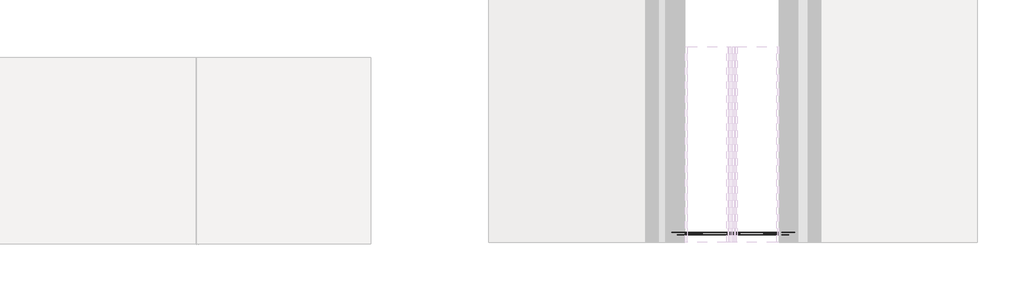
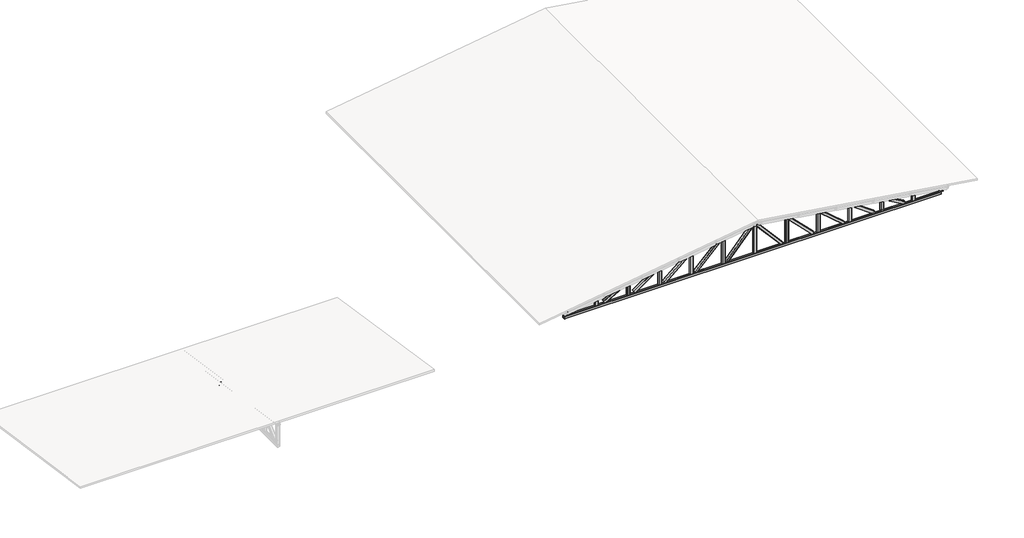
# One storey, part 2 of 3: 29 beams.
"""IFC4 building model written with IfcOpenShell, lengths in millimetres."""

from ifc_helpers import new_model, si_unit, point, frame, frame_2d, origin, place, context, project, spatial, polyline, circle_curve, ellipse_curve, trimmed, segment, composite_curve, outline, extrude, faceted_brep, transform, mapped, element, save
from ifc_brep_helpers import plane_surface, cylinder_surface, revolved_surface, advanced_brep
from components import viga_c_10x10_1bc73bf7, viga_c_10x10_cf1afbd9, viga_c_10x10_cb790618, viga_c_10x10_4bff73f7, viga_c_10x10_b83619fa, viga_c_10x10_4ffb476a, viga_c_10x10_01e8174d, viga_c_10x10_22368504, viga_c_10x10_3c9f5f1a, viga_c_10x10_9ffc08ec, viga_c_10x10_fef4f7e0, viga_c_10x10_f4dafbe5, viga_c_10x10_df6e70f8, viga_c_10x10_3737d6d8, viga_c_10x10_c9c204d0, viga_c_10x10_c1a71fa2, viga_c_10x10_071e4779, viga_c_10x10_0e2a75e5, viga_c_10x10_72518fa7, viga_c_10x10_66f59e24, viga_c_10x10_36be5f80, viga_c_10x10_e525f78e, viga_c_10x10_0d0f2ad4, viga_c_10x10_5beb1303, viga_c_10x10_dc3e690e, viga_c_10x10_2f6019ce

model = new_model("IFC4")

# Units and contexts
model_context = context("Model", 3, world=origin())
ifc_project = project(units=[si_unit("LENGTHUNIT", "METRE", prefix="MILLI")], contexts=[model_context])

# Site, building, storey
site = spatial("IfcSite", under=ifc_project)
building = spatial("IfcBuilding", under=site)
storey = spatial("IfcBuildingStorey", under=building, Name="NÍVEL PLATIBANDA", Elevation=4700.0)

# Beams
placement = place(None, origin())
element("IfcBeam", 1, ObjectType="VIGA PERFIL C AÇO : VIGA C 10X10", at=placement, inside=storey, context=model_context, shape_type="SweptSolid", body=[
    extrude(outline(composite_curve([segment(trimmed(circle_curve(frame_2d((-46.2, 3.8000001)), 3.8), [point((-46.2, 0.0))], [point((-50.0, 3.8000001))], False, "CARTESIAN"), True, "CONTINUOUS"), segment(polyline([(-50.0, 3.8000001), (-50.0, 96.2000001)]), True, "CONTINUOUS"), segment(trimmed(circle_curve(frame_2d((-46.2, 96.2000001)), 3.8), [point((-50.0, 96.2000001))], [point((-46.2, 100.0))], False, "CARTESIAN"), True, "CONTINUOUS"), segment(polyline([(-46.2, 100.0), (-30.0, 100.0), (-30.0, 98.1), (-46.2, 98.1)]), True, "CONTINUOUS"), segment(trimmed(circle_curve(frame_2d((-46.2, 96.2000001)), 1.9), [point((-46.2, 98.1))], [point((-48.1, 96.2000001))], True, "CARTESIAN"), True, "CONTINUOUS"), segment(polyline([(-48.1, 96.2000001), (-48.1, 3.8000001)]), True, "CONTINUOUS"), segment(trimmed(circle_curve(frame_2d((-46.2, 3.8000001)), 1.9), [point((-48.1, 3.8000001))], [point((-46.2, 1.9))], True, "CARTESIAN"), True, "CONTINUOUS"), segment(polyline([(-46.2, 1.9), (46.2, 1.9)]), True, "CONTINUOUS"), segment(trimmed(circle_curve(frame_2d((46.2, 3.8000001)), 1.9), [point((46.2, 1.9))], [point((48.1, 3.8000001))], True, "CARTESIAN"), True, "CONTINUOUS"), segment(polyline([(48.1, 3.8000001), (48.1, 96.2000001)]), True, "CONTINUOUS"), segment(trimmed(circle_curve(frame_2d((46.2, 96.2000001)), 1.9), [point((48.1, 96.2000001))], [point((46.2, 98.1))], True, "CARTESIAN"), True, "CONTINUOUS"), segment(polyline([(46.2, 98.1), (30.0, 98.1), (30.0, 100.0), (46.2, 100.0)]), True, "CONTINUOUS"), segment(trimmed(circle_curve(frame_2d((46.2, 96.2000001)), 3.8), [point((46.2, 100.0))], [point((50.0, 96.2000001))], False, "CARTESIAN"), True, "CONTINUOUS"), segment(polyline([(50.0, 96.2000001), (50.0, 3.8000001)]), True, "CONTINUOUS"), segment(trimmed(circle_curve(frame_2d((46.2, 3.8000001)), 3.8), [point((50.0, 3.8000001))], [point((46.2, 0.0))], False, "CARTESIAN"), True, "CONTINUOUS"), segment(polyline([(46.2, 0.0), (-46.2, 0.0)]), True, "CONTINUOUS")], self_intersect=False)), frame((-3669.981822, -3529.0461532, 5045.5077302), z_axis=(0.988936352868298, 0.0, 0.14834045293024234), x_axis=(0.0, -1.0, 0.0)), (0.0, 0.0, 1.0), 7123.0),
    extrude(outline(polyline([(-50.0, -9.2000001), (-50.0, 90.8), (-30.0, 90.8), (-30.0, 88.8999999), (-48.1, 88.8999999), (-48.1, -7.3), (48.1, -7.3), (48.1, 88.8999999), (30.0, 88.8999999), (30.0, 90.8), (50.0, 90.8), (50.0, -9.2000001), (-50.0, -9.2000001)])), frame((-3668.6170898, -3529.0461532, 5036.4095157), z_axis=(0.988936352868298, 0.0, 0.14834045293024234), x_axis=(0.0, -1.0, 0.0)), (0.0, 0.0, 1.0), 7123.0),
])
element("IfcBeam", 2, ObjectType="VIGA PERFIL C AÇO : VIGA C 10X10", at=placement, inside=storey, context=model_context, shape_type="SolidModel", body=[
    advanced_brep(
    [(3399.8113968, -3482.8461532, 6219.0793491), (3399.2477031, -3479.0461532, 6215.321391), (3385.5410452, -3479.0461532, 6123.943672), (3384.9773515, -3482.8461532, 6120.1857138), (3384.9773515, -3499.0461532, 6120.1857138), (3385.2591984, -3499.0461532, 6122.0646929), (3385.2591984, -3482.8461532, 6122.0646929), (3385.5410452, -3480.9461532, 6123.943672), (3399.2477031, -3480.9461532, 6215.321391), (3399.52955, -3482.8461532, 6217.2003701), (3399.52955, -3575.2461532, 6217.2003701), (3399.2477031, -3577.1461532, 6215.321391), (3385.5410452, -3577.1461532, 6123.943672), (3385.2591984, -3575.2461532, 6122.0646929), (3385.2591984, -3559.0461532, 6122.0646929), (3384.9773515, -3559.0461532, 6120.1857138), (3384.9773515, -3575.2461532, 6120.1857138), (3385.5410452, -3579.0461532, 6123.943672), (3399.2477031, -3579.0461532, 6215.321391), (3399.8113968, -3575.2461532, 6219.0793491), (11186.0201839, -3575.2461532, 5051.1480311), (11186.0201839, -3482.8461532, 5051.1480311), (11182.2201839, -3579.0461532, 5047.8755189), (11089.8201839, -3579.0461532, 4968.3018012), (11086.0201839, -3575.2461532, 4965.029289), (11086.0201839, -3559.0461532, 4965.029289), (11087.9201839, -3559.0461532, 4966.6655451), (11087.9201839, -3575.2461532, 4966.6655451), (11089.8201839, -3577.1461532, 4968.3018012), (11182.2201839, -3577.1461532, 5047.8755189), (11184.1201839, -3575.2461532, 5049.511775), (11184.1201839, -3482.8461532, 5049.511775), (11182.2201839, -3480.9461532, 5047.8755189), (11089.8201839, -3480.9461532, 4968.3018012), (11087.9201839, -3482.8461532, 4966.6655451), (11087.9201839, -3499.0461532, 4966.6655451), (11086.0201839, -3499.0461532, 4965.029289), (11086.0201839, -3482.8461532, 4965.029289), (11089.8201839, -3479.0461532, 4968.3018012), (11182.2201839, -3479.0461532, 5047.8755189)],
    [
        (0, 1, circle_curve(frame((3399.2477031, -3482.8461532, 6215.321391), z_axis=(-0.988936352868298, 0.0, 0.14834045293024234), x_axis=(-0.14834045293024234, 0.0, -0.988936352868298)), 3.8)),
        (1, 2),
        (2, 3, circle_curve(frame((3385.5410452, -3482.8461532, 6123.943672), z_axis=(-0.988936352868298, 0.0, 0.14834045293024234), x_axis=(-0.14834045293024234, 0.0, -0.988936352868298)), 3.8)),
        (3, 4),
        (4, 5),
        (5, 6),
        (6, 7, circle_curve(frame((3385.5410452, -3482.8461532, 6123.943672), z_axis=(0.988936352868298, 0.0, -0.14834045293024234), x_axis=(-0.14834045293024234, 0.0, -0.988936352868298)), 1.9)),
        (7, 8),
        (8, 9, circle_curve(frame((3399.2477031, -3482.8461532, 6215.321391), z_axis=(0.988936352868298, 0.0, -0.14834045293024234), x_axis=(-0.14834045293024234, 0.0, -0.988936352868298)), 1.9)),
        (9, 10),
        (10, 11, circle_curve(frame((3399.2477031, -3575.2461532, 6215.321391), z_axis=(0.988936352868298, 0.0, -0.14834045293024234), x_axis=(-0.14834045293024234, 0.0, -0.988936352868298)), 1.9)),
        (11, 12),
        (12, 13, circle_curve(frame((3385.5410452, -3575.2461532, 6123.943672), z_axis=(0.988936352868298, 0.0, -0.14834045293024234), x_axis=(-0.14834045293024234, 0.0, -0.988936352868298)), 1.9)),
        (13, 14),
        (14, 15),
        (15, 16),
        (16, 17, circle_curve(frame((3385.5410452, -3575.2461532, 6123.943672), z_axis=(-0.988936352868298, 0.0, 0.14834045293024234), x_axis=(-0.14834045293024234, 0.0, -0.988936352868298)), 3.8)),
        (17, 18),
        (18, 19, circle_curve(frame((3399.2477031, -3575.2461532, 6215.321391), z_axis=(-0.988936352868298, 0.0, 0.14834045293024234), x_axis=(-0.14834045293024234, 0.0, -0.988936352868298)), 3.8)),
        (19, 0),
        (20, 21),
        (21, 0),
        (19, 20),
        (22, 20, ellipse_curve(frame((11182.2201839, -3575.2461532, 5047.8755189), z_axis=(-0.6525563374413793, 0.0, 0.7577402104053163), x_axis=(0.757740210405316, 0.0, 0.6525563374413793)), 5.0149114, 3.8)),
        (18, 22),
        (23, 22),
        (17, 23),
        (24, 23, ellipse_curve(frame((11089.8201839, -3575.2461532, 4968.3018012), z_axis=(-0.6525563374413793, 0.0, 0.7577402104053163), x_axis=(0.757740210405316, 0.0, 0.6525563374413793)), 5.0149114, 3.8)),
        (16, 24),
        (25, 24),
        (15, 25),
        (26, 25),
        (14, 26),
        (27, 26),
        (13, 27),
        (28, 27, ellipse_curve(frame((11089.8201839, -3575.2461532, 4968.3018012), z_axis=(0.6525563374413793, 0.0, -0.7577402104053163), x_axis=(-0.757740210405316, 0.0, -0.6525563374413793)), 2.5074557, 1.9)),
        (12, 28),
        (29, 28),
        (11, 29),
        (30, 29, ellipse_curve(frame((11182.2201839, -3575.2461532, 5047.8755189), z_axis=(0.6525563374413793, 0.0, -0.7577402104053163), x_axis=(-0.757740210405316, 0.0, -0.6525563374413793)), 2.5074557, 1.9)),
        (10, 30),
        (31, 30),
        (9, 31),
        (32, 31, ellipse_curve(frame((11182.2201839, -3482.8461532, 5047.8755189), z_axis=(0.6525563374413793, 0.0, -0.7577402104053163), x_axis=(-0.757740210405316, 0.0, -0.6525563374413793)), 2.5074557, 1.9)),
        (8, 32),
        (33, 32),
        (7, 33),
        (34, 33, ellipse_curve(frame((11089.8201839, -3482.8461532, 4968.3018012), z_axis=(0.6525563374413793, 0.0, -0.7577402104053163), x_axis=(-0.757740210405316, 0.0, -0.6525563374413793)), 2.5074557, 1.9)),
        (6, 34),
        (35, 34),
        (5, 35),
        (36, 35),
        (4, 36),
        (37, 36),
        (3, 37),
        (38, 37, ellipse_curve(frame((11089.8201839, -3482.8461532, 4968.3018012), z_axis=(-0.6525563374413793, 0.0, 0.7577402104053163), x_axis=(0.757740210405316, 0.0, 0.6525563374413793)), 5.0149114, 3.8)),
        (2, 38),
        (39, 38),
        (1, 39),
        (21, 39, ellipse_curve(frame((11182.2201839, -3482.8461532, 5047.8755189), z_axis=(-0.6525563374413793, 0.0, 0.7577402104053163), x_axis=(0.757740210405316, 0.0, 0.6525563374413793)), 5.0149114, 3.8)),
    ],
    [
        plane_surface(frame((3399.8113968, -3529.0461532, 6219.0793491), z_axis=(-0.988936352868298, 0.0, 0.14834045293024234), x_axis=(0.0, -1.0, 0.0))),
        plane_surface(frame((11177.7958121, -3482.8461532, 5052.3816868), z_axis=(0.14834045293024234, 0.0, 0.988936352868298), x_axis=(-0.988936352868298, 0.0, 0.14834045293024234))),
        cylinder_surface(frame((11177.2321184, -3575.2461532, 5048.6237287), z_axis=(0.9889363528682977, 0.0, -0.1483404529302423), x_axis=(-0.14834045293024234, 0.0, -0.988936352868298)), 3.8),
        plane_surface(frame((11177.2321184, -3579.0461532, 5048.6237287), z_axis=(0.0, -1.0000000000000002, 0.0), x_axis=(-0.988936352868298, 0.0, 0.14834045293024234))),
        cylinder_surface(frame((11163.5254606, -3575.2461532, 4957.2460097), z_axis=(0.9889363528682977, 0.0, -0.1483404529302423), x_axis=(-0.14834045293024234, 0.0, -0.988936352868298)), 3.8),
        plane_surface(frame((11162.9617668, -3575.2461532, 4953.4880515), z_axis=(-0.14834045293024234, 0.0, -0.988936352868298), x_axis=(-0.988936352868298, 0.0, 0.14834045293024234))),
        plane_surface(frame((11162.9617668, -3559.0461532, 4953.4880515), z_axis=(0.0, 1.0000000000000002, 0.0), x_axis=(-0.988936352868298, 0.0, 0.14834045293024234))),
        plane_surface(frame((11163.2436137, -3559.0461532, 4955.3670306), z_axis=(0.14834045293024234, 0.0, 0.988936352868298), x_axis=(-0.988936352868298, 0.0, 0.14834045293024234))),
        revolved_surface(polyline([(3385.2591983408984, -3575.2461532, 6122.064692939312), (11091.15649018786, -3575.2461532, 4966.180099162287)]), (11163.5254606, -3575.2461532, 4957.2460097), (-0.9889363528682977, 0.0, 0.1483404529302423)),
        plane_surface(frame((11163.5254606, -3577.1461532, 4957.2460097), z_axis=(0.0, 1.0000000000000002, 0.0), x_axis=(-0.988936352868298, 0.0, 0.14834045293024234))),
        revolved_surface(polyline([(3398.9658562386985, -3575.2461532, 6213.442411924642), (11183.55649018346, -3575.2461532, 5045.7538168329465)]), (11177.2321184, -3575.2461532, 5048.6237287), (-0.9889363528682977, 0.0, 0.1483404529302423)),
        plane_surface(frame((11177.5139653, -3575.2461532, 5050.5027078), z_axis=(-0.14834045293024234, 0.0, -0.988936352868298), x_axis=(-0.988936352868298, 0.0, 0.14834045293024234))),
        revolved_surface(polyline([(3398.9658562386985, -3482.8461532, 6213.442411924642), (11183.55649018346, -3482.8461532, 5045.7538168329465)]), (11177.2321184, -3482.8461532, 5048.6237287), (-0.9889363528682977, 0.0, 0.1483404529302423)),
        plane_surface(frame((11177.2321184, -3480.9461532, 5048.6237287), z_axis=(0.0, -1.0000000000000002, 0.0), x_axis=(-0.988936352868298, 0.0, 0.14834045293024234))),
        revolved_surface(polyline([(3385.2591983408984, -3482.8461532, 6122.064692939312), (11091.15649018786, -3482.8461532, 4966.180099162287)]), (11163.5254606, -3482.8461532, 4957.2460097), (-0.9889363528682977, 0.0, 0.1483404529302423)),
        plane_surface(frame((11163.2436137, -3482.8461532, 4955.3670306), z_axis=(0.14834045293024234, 0.0, 0.988936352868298), x_axis=(-0.988936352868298, 0.0, 0.14834045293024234))),
        plane_surface(frame((11163.2436137, -3499.0461532, 4955.3670306), z_axis=(0.0, -1.0000000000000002, 0.0), x_axis=(-0.988936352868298, 0.0, 0.14834045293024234))),
        plane_surface(frame((11162.9617668, -3499.0461532, 4953.4880515), z_axis=(-0.14834045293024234, 0.0, -0.988936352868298), x_axis=(-0.988936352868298, 0.0, 0.14834045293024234))),
        cylinder_surface(frame((11163.5254606, -3482.8461532, 4957.2460097), z_axis=(0.9889363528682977, 0.0, -0.1483404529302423), x_axis=(-0.14834045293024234, 0.0, -0.988936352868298)), 3.8),
        plane_surface(frame((11163.5254606, -3479.0461532, 4957.2460097), z_axis=(0.0, 1.0000000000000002, 0.0), x_axis=(-0.988936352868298, 0.0, 0.14834045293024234))),
        cylinder_surface(frame((11177.2321184, -3482.8461532, 5048.6237287), z_axis=(0.9889363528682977, 0.0, -0.1483404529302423), x_axis=(-0.14834045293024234, 0.0, -0.988936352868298)), 3.8),
        plane_surface(frame((11186.0201839, -3529.0461532, 5051.1480311), z_axis=(0.6525563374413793, 0.0, -0.7577402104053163), x_axis=(0.7577402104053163, 0.0, 0.6525563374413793))),
    ],
    [
        (0, [[1, 2, 3, 4, 5, 6, 7, 8, 9, 10, 11, 12, 13, 14, 15, 16, 17, 18, 19, 20]]),
        (1, [[21, 22, -20, 23]]),
        (2, [[24, -23, -19, 25]]),
        (3, [[26, -25, -18, 27]]),
        (4, [[28, -27, -17, 29]]),
        (5, [[30, -29, -16, 31]]),
        (6, [[32, -31, -15, 33]]),
        (7, [[34, -33, -14, 35]]),
        (8, [[36, -35, -13, 37]]),
        (9, [[38, -37, -12, 39]]),
        (10, [[40, -39, -11, 41]]),
        (11, [[42, -41, -10, 43]]),
        (12, [[44, -43, -9, 45]]),
        (13, [[46, -45, -8, 47]]),
        (14, [[48, -47, -7, 49]]),
        (15, [[50, -49, -6, 51]]),
        (16, [[52, -51, -5, 53]]),
        (17, [[54, -53, -4, 55]]),
        (18, [[56, -55, -3, 57]]),
        (19, [[58, -57, -2, 59]]),
        (20, [[60, -59, -1, -22]]),
        (21, [[-21, -24, -26, -28, -30, -32, -34, -36, -38, -40, -42, -44, -46, -48, -50, -52, -54, -56, -58, -60]]),
    ],
),
    faceted_brep([(3399.8113968, -3479.0461532, 6219.0793491), (3384.9773515, -3479.0461532, 6120.1857138), (3384.9773515, -3499.0461532, 6120.1857138), (3385.2591984, -3499.0461532, 6122.0646929), (3385.2591984, -3480.9461532, 6122.0646929), (3399.52955, -3480.9461532, 6217.2003701), (3399.52955, -3577.1461532, 6217.2003701), (3385.2591984, -3577.1461532, 6122.0646929), (3385.2591984, -3559.0461532, 6122.0646929), (3384.9773515, -3559.0461532, 6120.1857138), (3384.9773515, -3579.0461532, 6120.1857138), (3399.8113968, -3579.0461532, 6219.0793491), (11186.0201839, -3579.0461532, 5051.1480311), (11186.0201839, -3479.0461532, 5051.1480311), (11086.0201839, -3579.0461532, 4965.029289), (11086.0201839, -3559.0461532, 4965.029289), (11087.9201839, -3559.0461532, 4966.6655451), (11087.9201839, -3577.1461532, 4966.6655451), (11184.1201839, -3577.1461532, 5049.511775), (11184.1201839, -3480.9461532, 5049.511775), (11087.9201839, -3480.9461532, 4966.6655451), (11087.9201839, -3499.0461532, 4966.6655451), (11086.0201839, -3499.0461532, 4965.029289), (11086.0201839, -3479.0461532, 4965.029289)], [[[0, 1, 2, 3, 4, 5, 6, 7, 8, 9, 10, 11]], [[12, 13, 0, 11]], [[14, 12, 11, 10]], [[15, 14, 10, 9]], [[16, 15, 9, 8]], [[17, 16, 8, 7]], [[18, 17, 7, 6]], [[19, 18, 6, 5]], [[20, 19, 5, 4]], [[21, 20, 4, 3]], [[22, 21, 3, 2]], [[23, 22, 2, 1]], [[13, 23, 1, 0]], [[13, 12, 14, 15, 16, 17, 18, 19, 20, 21, 22, 23]]]),
])
element("IfcBeam", 3, ObjectType="VIGA PERFIL C AÇO : VIGA C 10X10", at=placement, inside=storey, context=model_context, shape_type="SolidModel", body=[
    advanced_brep(
    [(11186.0201839, -3482.8461532, 4804.1125534), (11186.0201839, -3575.2461532, 4804.1125534), (11182.2201839, -3579.0461532, 4804.1125534), (11089.8201839, -3579.0461532, 4804.1125534), (11086.0201839, -3575.2461532, 4804.1125534), (11086.0201839, -3559.0461532, 4804.1125534), (11087.9201839, -3559.0461532, 4804.1125534), (11087.9201839, -3575.2461532, 4804.1125534), (11089.8201839, -3577.1461532, 4804.1125534), (11182.2201839, -3577.1461532, 4804.1125534), (11184.1201839, -3575.2461532, 4804.1125534), (11184.1201839, -3482.8461532, 4804.1125534), (11182.2201839, -3480.9461532, 4804.1125534), (11089.8201839, -3480.9461532, 4804.1125534), (11087.9201839, -3482.8461532, 4804.1125534), (11087.9201839, -3499.0461532, 4804.1125534), (11086.0201839, -3499.0461532, 4804.1125534), (11086.0201839, -3482.8461532, 4804.1125534), (11089.8201839, -3479.0461532, 4804.1125534), (11182.2201839, -3479.0461532, 4804.1125534), (11186.0201839, -3482.8461532, 5051.1480311), (11186.0201839, -3575.2461532, 5051.1480311), (11182.2201839, -3579.0461532, 5047.8755189), (11089.8201839, -3579.0461532, 4968.3018012), (11086.0201839, -3575.2461532, 4965.029289), (11086.0201839, -3559.0461532, 4965.029289), (11087.9201839, -3559.0461532, 4966.6655451), (11087.9201839, -3575.2461532, 4966.6655451), (11089.8201839, -3577.1461532, 4968.3018012), (11182.2201839, -3577.1461532, 5047.8755189), (11184.1201839, -3575.2461532, 5049.511775), (11184.1201839, -3482.8461532, 5049.511775), (11182.2201839, -3480.9461532, 5047.8755189), (11089.8201839, -3480.9461532, 4968.3018012), (11087.9201839, -3482.8461532, 4966.6655451), (11087.9201839, -3499.0461532, 4966.6655451), (11086.0201839, -3499.0461532, 4965.029289), (11086.0201839, -3482.8461532, 4965.029289), (11089.8201839, -3479.0461532, 4968.3018012), (11182.2201839, -3479.0461532, 5047.8755189)],
    [
        (0, 1),
        (1, 2, circle_curve(frame((11182.2201839, -3575.2461532, 4804.1125534), z_axis=(0.0, 0.0, -1.0), x_axis=(-1.0, 0.0, 0.0)), 3.8)),
        (2, 3),
        (3, 4, circle_curve(frame((11089.8201839, -3575.2461532, 4804.1125534), z_axis=(0.0, 0.0, -1.0), x_axis=(-1.0, 0.0, 0.0)), 3.8)),
        (4, 5),
        (5, 6),
        (6, 7),
        (7, 8, circle_curve(frame((11089.8201839, -3575.2461532, 4804.1125534), z_axis=(0.0, 0.0, 1.0), x_axis=(-1.0, 0.0, 0.0)), 1.9)),
        (8, 9),
        (9, 10, circle_curve(frame((11182.2201839, -3575.2461532, 4804.1125534), z_axis=(0.0, 0.0, 1.0), x_axis=(-1.0, 0.0, 0.0)), 1.9)),
        (10, 11),
        (11, 12, circle_curve(frame((11182.2201839, -3482.8461532, 4804.1125534), z_axis=(0.0, 0.0, 1.0), x_axis=(-1.0, 0.0, 0.0)), 1.9)),
        (12, 13),
        (13, 14, circle_curve(frame((11089.8201839, -3482.8461532, 4804.1125534), z_axis=(0.0, 0.0, 1.0), x_axis=(-1.0, 0.0, 0.0)), 1.9)),
        (14, 15),
        (15, 16),
        (16, 17),
        (17, 18, circle_curve(frame((11089.8201839, -3482.8461532, 4804.1125534), z_axis=(0.0, 0.0, -1.0), x_axis=(-1.0, 0.0, 0.0)), 3.8)),
        (18, 19),
        (19, 0, circle_curve(frame((11182.2201839, -3482.8461532, 4804.1125534), z_axis=(0.0, 0.0, -1.0), x_axis=(-1.0, 0.0, 0.0)), 3.8)),
        (0, 20),
        (20, 21),
        (21, 1),
        (21, 22, ellipse_curve(frame((11182.2201839, -3575.2461532, 5047.8755189), z_axis=(0.6525563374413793, 0.0, -0.7577402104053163), x_axis=(-0.7577402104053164, 0.0, -0.652556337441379)), 5.0149114, 3.8)),
        (22, 2),
        (22, 23),
        (23, 3),
        (23, 24, ellipse_curve(frame((11089.8201839, -3575.2461532, 4968.3018012), z_axis=(0.6525563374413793, 0.0, -0.7577402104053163), x_axis=(-0.7577402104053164, 0.0, -0.652556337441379)), 5.0149114, 3.8)),
        (24, 4),
        (24, 25),
        (25, 5),
        (25, 26),
        (26, 6),
        (26, 27),
        (27, 7),
        (27, 28, ellipse_curve(frame((11089.8201839, -3575.2461532, 4968.3018012), z_axis=(-0.6525563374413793, 0.0, 0.7577402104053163), x_axis=(0.7577402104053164, 0.0, 0.652556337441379)), 2.5074557, 1.9)),
        (28, 8),
        (28, 29),
        (29, 9),
        (29, 30, ellipse_curve(frame((11182.2201839, -3575.2461532, 5047.8755189), z_axis=(-0.6525563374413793, 0.0, 0.7577402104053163), x_axis=(0.7577402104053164, 0.0, 0.652556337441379)), 2.5074557, 1.9)),
        (30, 10),
        (30, 31),
        (31, 11),
        (31, 32, ellipse_curve(frame((11182.2201839, -3482.8461532, 5047.8755189), z_axis=(-0.6525563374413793, 0.0, 0.7577402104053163), x_axis=(0.7577402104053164, 0.0, 0.652556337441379)), 2.5074557, 1.9)),
        (32, 12),
        (32, 33),
        (33, 13),
        (33, 34, ellipse_curve(frame((11089.8201839, -3482.8461532, 4968.3018012), z_axis=(-0.6525563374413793, 0.0, 0.7577402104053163), x_axis=(0.7577402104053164, 0.0, 0.652556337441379)), 2.5074557, 1.9)),
        (34, 14),
        (34, 35),
        (35, 15),
        (35, 36),
        (36, 16),
        (36, 37),
        (37, 17),
        (37, 38, ellipse_curve(frame((11089.8201839, -3482.8461532, 4968.3018012), z_axis=(0.6525563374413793, 0.0, -0.7577402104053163), x_axis=(-0.7577402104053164, 0.0, -0.652556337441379)), 5.0149114, 3.8)),
        (38, 18),
        (38, 39),
        (39, 19),
        (39, 20, ellipse_curve(frame((11182.2201839, -3482.8461532, 5047.8755189), z_axis=(0.6525563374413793, 0.0, -0.7577402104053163), x_axis=(-0.7577402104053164, 0.0, -0.652556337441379)), 5.0149114, 3.8)),
    ],
    [
        plane_surface(frame((11186.0201839, -3529.0461532, 4804.1125534), z_axis=(0.0, 0.0, -1.0), x_axis=(0.0, -1.0, 0.0))),
        plane_surface(frame((11186.0201839, -3482.8461532, 4804.1125534), z_axis=(1.0, 0.0, 0.0), x_axis=(0.0, 0.0, 1.0))),
        cylinder_surface(frame((11182.2201839, -3575.2461532, 4804.1125534), z_axis=(0.0, 0.0, -1.0), x_axis=(-1.0, 0.0, 0.0)), 3.8),
        plane_surface(frame((11182.2201839, -3579.0461532, 4804.1125534), z_axis=(0.0, -1.0, 0.0), x_axis=(0.0, 0.0, 1.0))),
        cylinder_surface(frame((11089.8201839, -3575.2461532, 4804.1125534), z_axis=(0.0, 0.0, -1.0), x_axis=(-1.0, 0.0, 0.0)), 3.8),
        plane_surface(frame((11086.0201839, -3575.2461532, 4804.1125534), z_axis=(-1.0, 0.0, 0.0), x_axis=(0.0, 0.0, 1.0))),
        plane_surface(frame((11086.0201839, -3559.0461532, 4804.1125534), z_axis=(0.0, 1.0, 0.0), x_axis=(0.0, 0.0, 1.0))),
        plane_surface(frame((11087.9201839, -3559.0461532, 4804.1125534), z_axis=(1.0, 0.0, 0.0), x_axis=(0.0, 0.0, 1.0))),
        revolved_surface(polyline([(11087.9201839, -3575.2461532, 4969.938057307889), (11087.9201839, -3575.2461532, 4804.1125534)]), (11089.8201839, -3575.2461532, 4804.1125534), (0.0, 0.0, 1.0)),
        plane_surface(frame((11089.8201839, -3577.1461532, 4804.1125534), z_axis=(0.0, 1.0, 0.0), x_axis=(0.0, 0.0, 1.0))),
        revolved_surface(polyline([(11180.320183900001, -3575.2461532, 5049.511775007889), (11180.320183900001, -3575.2461532, 4804.1125534)]), (11182.2201839, -3575.2461532, 4804.1125534), (0.0, 0.0, 1.0)),
        plane_surface(frame((11184.1201839, -3575.2461532, 4804.1125534), z_axis=(-1.0, 0.0, 0.0), x_axis=(0.0, 0.0, 1.0))),
        revolved_surface(polyline([(11180.320183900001, -3482.8461532, 5049.511775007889), (11180.320183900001, -3482.8461532, 4804.1125534)]), (11182.2201839, -3482.8461532, 4804.1125534), (0.0, 0.0, 1.0)),
        plane_surface(frame((11182.2201839, -3480.9461532, 4804.1125534), z_axis=(0.0, -1.0, 0.0), x_axis=(0.0, 0.0, 1.0))),
        revolved_surface(polyline([(11087.9201839, -3482.8461532, 4969.938057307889), (11087.9201839, -3482.8461532, 4804.1125534)]), (11089.8201839, -3482.8461532, 4804.1125534), (0.0, 0.0, 1.0)),
        plane_surface(frame((11087.9201839, -3482.8461532, 4804.1125534), z_axis=(1.0, 0.0, 0.0), x_axis=(0.0, 0.0, 1.0))),
        plane_surface(frame((11087.9201839, -3499.0461532, 4804.1125534), z_axis=(0.0, -1.0, 0.0), x_axis=(0.0, 0.0, 1.0))),
        plane_surface(frame((11086.0201839, -3499.0461532, 4804.1125534), z_axis=(-1.0, 0.0, 0.0), x_axis=(0.0, 0.0, 1.0))),
        cylinder_surface(frame((11089.8201839, -3482.8461532, 4804.1125534), z_axis=(0.0, 0.0, -1.0), x_axis=(-1.0, 0.0, 0.0)), 3.8),
        plane_surface(frame((11089.8201839, -3479.0461532, 4804.1125534), z_axis=(0.0, 1.0, 0.0), x_axis=(0.0, 0.0, 1.0))),
        cylinder_surface(frame((11182.2201839, -3482.8461532, 4804.1125534), z_axis=(0.0, 0.0, -1.0), x_axis=(-1.0, 0.0, 0.0)), 3.8),
        plane_surface(frame((11086.0201839, -3529.0461532, 4965.029289), z_axis=(-0.6525563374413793, 0.0, 0.7577402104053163), x_axis=(0.7577402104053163, 0.0, 0.6525563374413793))),
    ],
    [
        (0, [[1, 2, 3, 4, 5, 6, 7, 8, 9, 10, 11, 12, 13, 14, 15, 16, 17, 18, 19, 20]]),
        (1, [[-1, 21, 22, 23]]),
        (2, [[-2, -23, 24, 25]]),
        (3, [[-3, -25, 26, 27]]),
        (4, [[-4, -27, 28, 29]]),
        (5, [[-5, -29, 30, 31]]),
        (6, [[-6, -31, 32, 33]]),
        (7, [[-7, -33, 34, 35]]),
        (8, [[-8, -35, 36, 37]]),
        (9, [[-9, -37, 38, 39]]),
        (10, [[-10, -39, 40, 41]]),
        (11, [[-11, -41, 42, 43]]),
        (12, [[-12, -43, 44, 45]]),
        (13, [[-13, -45, 46, 47]]),
        (14, [[-14, -47, 48, 49]]),
        (15, [[-15, -49, 50, 51]]),
        (16, [[-16, -51, 52, 53]]),
        (17, [[-17, -53, 54, 55]]),
        (18, [[-18, -55, 56, 57]]),
        (19, [[-19, -57, 58, 59]]),
        (20, [[-20, -59, 60, -21]]),
        (21, [[-60, -58, -56, -54, -52, -50, -48, -46, -44, -42, -40, -38, -36, -34, -32, -30, -28, -26, -24, -22]]),
    ],
),
    faceted_brep([(11186.0201839, -3479.0461532, 4804.1125534), (11186.0201839, -3579.0461532, 4804.1125534), (11086.0201839, -3579.0461532, 4804.1125534), (11086.0201839, -3559.0461532, 4804.1125534), (11087.9201839, -3559.0461532, 4804.1125534), (11087.9201839, -3577.1461532, 4804.1125534), (11184.1201839, -3577.1461532, 4804.1125534), (11184.1201839, -3480.9461532, 4804.1125534), (11087.9201839, -3480.9461532, 4804.1125534), (11087.9201839, -3499.0461532, 4804.1125534), (11086.0201839, -3499.0461532, 4804.1125534), (11086.0201839, -3479.0461532, 4804.1125534), (11186.0201839, -3479.0461532, 5051.1480311), (11186.0201839, -3579.0461532, 5051.1480311), (11086.0201839, -3579.0461532, 4965.029289), (11086.0201839, -3559.0461532, 4965.029289), (11087.9201839, -3559.0461532, 4966.6655451), (11087.9201839, -3577.1461532, 4966.6655451), (11184.1201839, -3577.1461532, 5049.511775), (11184.1201839, -3480.9461532, 5049.511775), (11087.9201839, -3480.9461532, 4966.6655451), (11087.9201839, -3499.0461532, 4966.6655451), (11086.0201839, -3499.0461532, 4965.029289), (11086.0201839, -3479.0461532, 4965.029289)], [[[0, 1, 2, 3, 4, 5, 6, 7, 8, 9, 10, 11]], [[1, 0, 12, 13]], [[2, 1, 13, 14]], [[3, 2, 14, 15]], [[4, 3, 15, 16]], [[5, 4, 16, 17]], [[6, 5, 17, 18]], [[7, 6, 18, 19]], [[8, 7, 19, 20]], [[9, 8, 20, 21]], [[10, 9, 21, 22]], [[11, 10, 22, 23]], [[0, 11, 23, 12]], [[12, 23, 22, 21, 20, 19, 18, 17, 16, 15, 14, 13]]]),
])
viga_c_10x10_shape = viga_c_10x10_1bc73bf7(model_context)
element("IfcBeam", 4, ObjectType="VIGA PERFIL C AÇO : VIGA C 10X10", at=placement, inside=storey, context=model_context, shape_type="MappedRepresentation", body=[
    mapped(viga_c_10x10_shape, transform((3701.8201839, -3529.0461532, 4700.0), x_axis=(1.0, 0.0, 0.0), y_axis=(0.0, 0.0, -1.0), z_axis=(0.0, 1.0, 0.0))),
])
viga_c_10x10_2_shape = viga_c_10x10_cf1afbd9(model_context)
element("IfcBeam", 5, ObjectType="VIGA PERFIL C AÇO : VIGA C 10X10", at=placement, inside=storey, context=model_context, shape_type="MappedRepresentation", body=[
    mapped(viga_c_10x10_2_shape, transform((10068.4868505, -3529.0461532, 4954.7375534), x_axis=(0.0, 0.0, 1.0), y_axis=(-1.0, 0.0, 0.0), z_axis=(0.0, -1.0, 0.0))),
])
viga_c_10x10_3_shape = viga_c_10x10_cb790618(model_context)
element("IfcBeam", 6, ObjectType="VIGA PERFIL C AÇO : VIGA C 10X10", at=placement, inside=storey, context=model_context, shape_type="MappedRepresentation", body=[
    mapped(viga_c_10x10_3_shape, transform((-2514.8464828, -3529.0461532, 4954.7375534), x_axis=(0.0, 0.0, 1.0), y_axis=(-1.0, 0.0, 0.0), z_axis=(0.0, -1.0, 0.0))),
])
viga_c_10x10_4_shape = viga_c_10x10_4bff73f7(model_context)
element("IfcBeam", 7, ObjectType="VIGA PERFIL C AÇO : VIGA C 10X10", at=placement, inside=storey, context=model_context, shape_type="MappedRepresentation", body=[
    mapped(viga_c_10x10_4_shape, transform((8810.1535172, -3529.0461532, 5049.1125534), x_axis=(0.0, 0.0, 1.0), y_axis=(-1.0, 0.0, 0.0), z_axis=(0.0, -1.0, 0.0))),
])
viga_c_10x10_5_shape = viga_c_10x10_b83619fa(model_context)
element("IfcBeam", 8, ObjectType="VIGA PERFIL C AÇO : VIGA C 10X10", at=placement, inside=storey, context=model_context, shape_type="MappedRepresentation", body=[
    mapped(viga_c_10x10_5_shape, transform((-1256.5131495, -3529.0461532, 5049.1125534), x_axis=(0.0, 0.0, 1.0), y_axis=(-1.0, 0.0, 0.0), z_axis=(0.0, -1.0, 0.0))),
])
viga_c_10x10_6_shape = viga_c_10x10_4ffb476a(model_context)
element("IfcBeam", 9, ObjectType="VIGA PERFIL C AÇO : VIGA C 10X10", at=placement, inside=storey, context=model_context, shape_type="MappedRepresentation", body=[
    mapped(viga_c_10x10_6_shape, transform((7551.8201839, -3529.0461532, 5143.4875534), x_axis=(0.0, 0.0, 1.0), y_axis=(-1.0, 0.0, 0.0), z_axis=(0.0, -1.0, 0.0))),
])
viga_c_10x10_7_shape = viga_c_10x10_01e8174d(model_context)
element("IfcBeam", 10, ObjectType="VIGA PERFIL C AÇO : VIGA C 10X10", at=placement, inside=storey, context=model_context, shape_type="MappedRepresentation", body=[
    mapped(viga_c_10x10_7_shape, transform((6293.4868505, -3529.0461532, 5237.8625534), x_axis=(0.0, 0.0, 1.0), y_axis=(-1.0, 0.0, 0.0), z_axis=(0.0, -1.0, 0.0))),
])
viga_c_10x10_8_shape = viga_c_10x10_22368504(model_context)
element("IfcBeam", 11, ObjectType="VIGA PERFIL C AÇO : VIGA C 10X10", at=placement, inside=storey, context=model_context, shape_type="MappedRepresentation", body=[
    mapped(viga_c_10x10_8_shape, transform((5035.1535172, -3529.0461532, 5332.2375534), x_axis=(0.0, 0.0, 1.0), y_axis=(-1.0, 0.0, 0.0), z_axis=(0.0, -1.0, 0.0))),
])
viga_c_10x10_9_shape = viga_c_10x10_3c9f5f1a(model_context)
element("IfcBeam", 12, ObjectType="VIGA PERFIL C AÇO : VIGA C 10X10", at=placement, inside=storey, context=model_context, shape_type="MappedRepresentation", body=[
    mapped(viga_c_10x10_9_shape, transform((1.8201839, -3529.0461532, 5143.4875534), x_axis=(0.0, 0.0, 1.0), y_axis=(-1.0, 0.0, 0.0), z_axis=(0.0, -1.0, 0.0))),
])
viga_c_10x10_10_shape = viga_c_10x10_9ffc08ec(model_context)
element("IfcBeam", 13, ObjectType="VIGA PERFIL C AÇO : VIGA C 10X10", at=placement, inside=storey, context=model_context, shape_type="MappedRepresentation", body=[
    mapped(viga_c_10x10_10_shape, transform((1260.1535172, -3529.0461532, 5237.8625534), x_axis=(0.0, 0.0, 1.0), y_axis=(-1.0, 0.0, 0.0), z_axis=(0.0, -1.0, 0.0))),
])
viga_c_10x10_11_shape = viga_c_10x10_fef4f7e0(model_context)
element("IfcBeam", 14, ObjectType="VIGA PERFIL C AÇO : VIGA C 10X10", at=placement, inside=storey, context=model_context, shape_type="MappedRepresentation", body=[
    mapped(viga_c_10x10_11_shape, transform((2518.4868505, -3529.0461532, 5332.2375534), x_axis=(0.0, 0.0, 1.0), y_axis=(-1.0, 0.0, 0.0), z_axis=(0.0, -1.0, 0.0))),
])
viga_c_10x10_12_shape = viga_c_10x10_f4dafbe5(model_context)
element("IfcBeam", 15, ObjectType="VIGA PERFIL C AÇO : VIGA C 10X10", at=placement, inside=storey, context=model_context, shape_type="MappedRepresentation", body=[
    mapped(viga_c_10x10_12_shape, transform((3776.8201839, -3529.0461532, 5426.6125534), x_axis=(0.0, 0.0, 1.0), y_axis=(-1.0, 0.0, 0.0), z_axis=(0.0, -1.0, 0.0))),
])
viga_c_10x10_13_shape = viga_c_10x10_df6e70f8(model_context)
element("IfcBeam", 16, ObjectType="VIGA PERFIL C AÇO : VIGA C 10X10", at=placement, inside=storey, context=model_context, shape_type="MappedRepresentation", body=[
    mapped(viga_c_10x10_13_shape, transform((11176.8201839, -3529.0461532, 4871.6125534), x_axis=(0.0, 0.0, 1.0), y_axis=(-1.0, 0.0, 0.0), z_axis=(0.0, -1.0, 0.0))),
])
viga_c_10x10_14_shape = viga_c_10x10_3737d6d8(model_context)
element("IfcBeam", 17, ObjectType="VIGA PERFIL C AÇO : VIGA C 10X10", at=placement, inside=storey, context=model_context, shape_type="MappedRepresentation", body=[
    mapped(viga_c_10x10_14_shape, transform((9439.3201839, -3529.0461532, 5049.1125534), x_axis=(0.8744076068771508, 0.0, -0.485192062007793), y_axis=(0.485192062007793, 0.0, 0.8744076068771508), z_axis=(0.0, -1.0, 0.0))),
])
viga_c_10x10_15_shape = viga_c_10x10_c9c204d0(model_context)
element("IfcBeam", 18, ObjectType="VIGA PERFIL C AÇO : VIGA C 10X10", at=placement, inside=storey, context=model_context, shape_type="MappedRepresentation", body=[
    mapped(viga_c_10x10_15_shape, transform((-1885.6798161, -3529.0461532, 5049.1125534), x_axis=(0.8744076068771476, 0.0, 0.4851920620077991), y_axis=(-0.4851920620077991, 0.0, 0.8744076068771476), z_axis=(0.0, -1.0, 0.0))),
])
viga_c_10x10_16_shape = viga_c_10x10_c1a71fa2(model_context)
element("IfcBeam", 19, ObjectType="VIGA PERFIL C AÇO : VIGA C 10X10", at=placement, inside=storey, context=model_context, shape_type="MappedRepresentation", body=[
    mapped(viga_c_10x10_16_shape, transform((8180.9868505, -3529.0461532, 5143.4875534), x_axis=(0.81735332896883, 0.0, -0.5761367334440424), y_axis=(0.5761367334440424, 0.0, 0.81735332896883), z_axis=(0.0, -1.0, 0.0))),
])
viga_c_10x10_17_shape = viga_c_10x10_071e4779(model_context)
element("IfcBeam", 20, ObjectType="VIGA PERFIL C AÇO : VIGA C 10X10", at=placement, inside=storey, context=model_context, shape_type="MappedRepresentation", body=[
    mapped(viga_c_10x10_17_shape, transform((-627.3464828, -3529.0461532, 5143.4875534), x_axis=(0.8173533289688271, 0.0, 0.5761367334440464), y_axis=(-0.5761367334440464, 0.0, 0.8173533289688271), z_axis=(0.0, -1.0, 0.0))),
])
viga_c_10x10_18_shape = viga_c_10x10_0e2a75e5(model_context)
element("IfcBeam", 21, ObjectType="VIGA PERFIL C AÇO : VIGA C 10X10", at=placement, inside=storey, context=model_context, shape_type="MappedRepresentation", body=[
    mapped(viga_c_10x10_18_shape, transform((6922.6535172, -3529.0461532, 5237.8625534), x_axis=(0.7601055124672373, 0.0, -0.6497996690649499), y_axis=(0.6497996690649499, 0.0, 0.7601055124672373), z_axis=(0.0, -1.0, 0.0))),
])
viga_c_10x10_19_shape = viga_c_10x10_72518fa7(model_context)
element("IfcBeam", 22, ObjectType="VIGA PERFIL C AÇO : VIGA C 10X10", at=placement, inside=storey, context=model_context, shape_type="MappedRepresentation", body=[
    mapped(viga_c_10x10_19_shape, transform((5664.3201839, -3529.0461532, 5332.2375534), x_axis=(0.7053832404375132, 0.0, -0.7088261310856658), y_axis=(0.7088261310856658, 0.0, 0.7053832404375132), z_axis=(0.0, -1.0, 0.0))),
])
viga_c_10x10_20_shape = viga_c_10x10_66f59e24(model_context)
element("IfcBeam", 23, ObjectType="VIGA PERFIL C AÇO : VIGA C 10X10", at=placement, inside=storey, context=model_context, shape_type="MappedRepresentation", body=[
    mapped(viga_c_10x10_20_shape, transform((4405.9868505, -3529.0461532, 5426.6125534), x_axis=(0.654595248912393, 0.0, -0.755979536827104), y_axis=(0.755979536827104, 0.0, 0.654595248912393), z_axis=(0.0, -1.0, 0.0))),
])
viga_c_10x10_21_shape = viga_c_10x10_36be5f80(model_context)
element("IfcBeam", 24, ObjectType="VIGA PERFIL C AÇO : VIGA C 10X10", at=placement, inside=storey, context=model_context, shape_type="MappedRepresentation", body=[
    mapped(viga_c_10x10_21_shape, transform((630.9868505, -3529.0461532, 5237.8625534), x_axis=(0.7601055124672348, 0.0, 0.6497996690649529), y_axis=(-0.6497996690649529, 0.0, 0.7601055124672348), z_axis=(0.0, -1.0, 0.0))),
])
viga_c_10x10_22_shape = viga_c_10x10_e525f78e(model_context)
element("IfcBeam", 25, ObjectType="VIGA PERFIL C AÇO : VIGA C 10X10", at=placement, inside=storey, context=model_context, shape_type="MappedRepresentation", body=[
    mapped(viga_c_10x10_22_shape, transform((1889.3201839, -3529.0461532, 5332.2375534), x_axis=(0.7053832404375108, 0.0, 0.7088261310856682), y_axis=(-0.7088261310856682, 0.0, 0.7053832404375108), z_axis=(0.0, -1.0, 0.0))),
])
viga_c_10x10_23_shape = viga_c_10x10_0d0f2ad4(model_context)
element("IfcBeam", 26, ObjectType="VIGA PERFIL C AÇO : VIGA C 10X10", at=placement, inside=storey, context=model_context, shape_type="MappedRepresentation", body=[
    mapped(viga_c_10x10_23_shape, transform((3147.6535172, -3529.0461532, 5426.6125534), x_axis=(0.6545952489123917, 0.0, 0.7559795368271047), y_axis=(-0.7559795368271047, 0.0, 0.6545952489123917), z_axis=(0.0, -1.0, 0.0))),
])
viga_c_10x10_24_shape = viga_c_10x10_5beb1303(model_context)
element("IfcBeam", 27, ObjectType="VIGA PERFIL C AÇO : VIGA C 10X10", at=placement, inside=storey, context=model_context, shape_type="MappedRepresentation", body=[
    mapped(viga_c_10x10_24_shape, transform((-15299.1331456, 650.0018914, 3715.6039522), x_axis=(0.0, 0.0, 1.0), y_axis=(0.0, -1.0, 0.0), z_axis=(1.0, 0.0, 0.0))),
])
viga_c_10x10_25_shape = viga_c_10x10_dc3e690e(model_context)
element("IfcBeam", 28, ObjectType="VIGA PERFIL C AÇO : VIGA C 10X10", at=placement, inside=storey, context=model_context, shape_type="MappedRepresentation", body=[
    mapped(viga_c_10x10_25_shape, transform((-15299.1331456, 196.668558, 3783.6039522), x_axis=(0.0, 0.8889197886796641, -0.45806288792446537), y_axis=(0.0, 0.45806288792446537, 0.8889197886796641), z_axis=(1.0, 0.0, 0.0))),
])
viga_c_10x10_26_shape = viga_c_10x10_2f6019ce(model_context)
element("IfcBeam", 29, ObjectType="VIGA PERFIL C AÇO : VIGA C 10X10", at=placement, inside=storey, context=model_context, shape_type="MappedRepresentation", body=[
    mapped(viga_c_10x10_26_shape, transform((-15299.1331456, 1103.3352247, 3715.6039522), x_axis=(0.0, 0.9392896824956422, -0.34312518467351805), y_axis=(0.0, 0.34312518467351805, 0.9392896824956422), z_axis=(1.0, 0.0, 0.0))),
])

save(model, "model.ifc")
